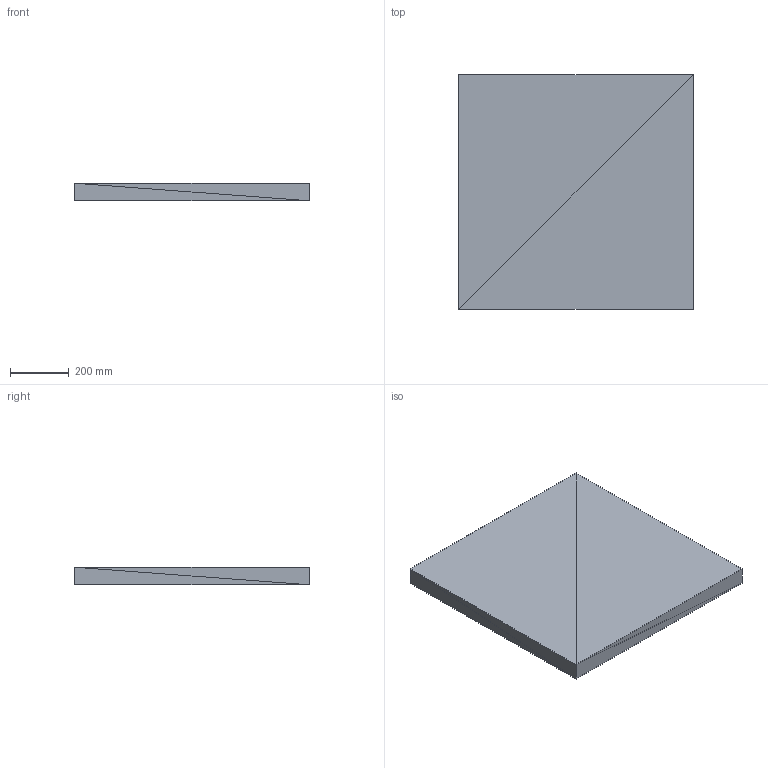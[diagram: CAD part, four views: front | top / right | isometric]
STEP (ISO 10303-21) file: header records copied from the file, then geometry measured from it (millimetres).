
FILE_DESCRIPTION(('ISINAC STEP AP214'),'2;1');
FILE_NAME('ISINAC_C.800_60mm_ADHESIVO','2026-05-03T10:49:19',('ISINAC'),('www.isinac.com'),'ISINAC BIM Generator 1.0','','');
FILE_SCHEMA(('AUTOMOTIVE_DESIGN'));
Length unit declared in the file: millimetre
Products named in the file (1): ISINAC_C.800_60mm_ADHESIVO
Bounding box: 800 x 800 x 60 mm (x, y, z)
Surface area: 1472000 mm2 (no closed solid volume)
Topology: 0 solids, 12 shells, 12 faces, 36 edges, 36 vertices
Faces by surface type: plane 12
Entity records: 145 total; most frequent: CARTESIAN_POINT 48, DIRECTION 24, POLY_LOOP 12, FACE_OUTER_BOUND 12, AXIS2_PLACEMENT_3D 12, PLANE 12, FACE_SURFACE 12, CLOSED_SHELL 1
